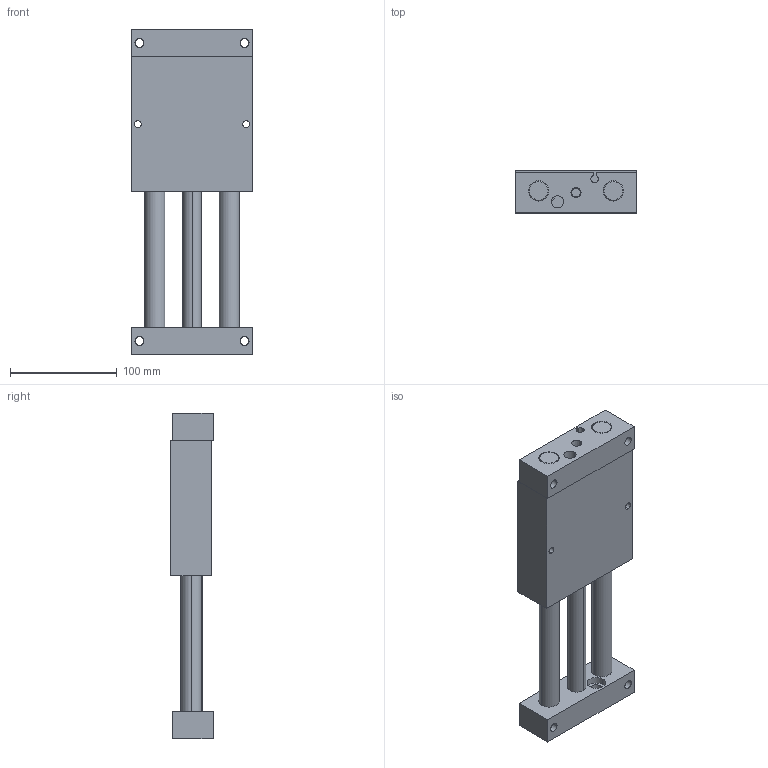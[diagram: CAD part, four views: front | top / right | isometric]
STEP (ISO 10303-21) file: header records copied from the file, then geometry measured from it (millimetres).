
FILE_DESCRIPTION (( 'STEP AP203' ), '1' );
FILE_NAME ('AGSL-5 NO SHOCKS in MM.STEP', '2014-11-07T16:57:09', ( 'setup' ), ( '' ), 'SwSTEP 2.0', 'SolidWorks 2013', '' );
FILE_SCHEMA (( 'CONFIG_CONTROL_DESIGN' ));
Length unit declared in the file: millimetre
Products named in the file (5): AGSL-5 BODY; AGSL-5 END SUPPORT; AGSL-5 PISTON ROD; AGSL-5 GUIDE ROD; AGSL-5 NO SHOCKS in MM
Assembly tree (6 placements, depth 2):
  AGSL-5 NO SHOCKS in MM
    AGSL-5 BODY
    AGSL-5 END SUPPORT  x2
    AGSL-5 PISTON ROD
    AGSL-5 GUIDE ROD  x2
Bounding box: 114.3 x 39.7 x 304.8 mm (x, y, z)
Volume: 841004.2 mm3; surface area: 169777.8 mm2
Topology: 6 solids, 6 shells, 160 faces, 384 edges, 250 vertices
Faces by surface type: cylinder 94, plane 50, cone 16
Entity records: 3837 total; most frequent: CARTESIAN_POINT 681, DIRECTION 594, ORIENTED_EDGE 488, EDGE_CURVE 244, AXIS2_PLACEMENT_3D 244, VERTEX_POINT 161, EDGE_LOOP 147, CIRCLE 130
